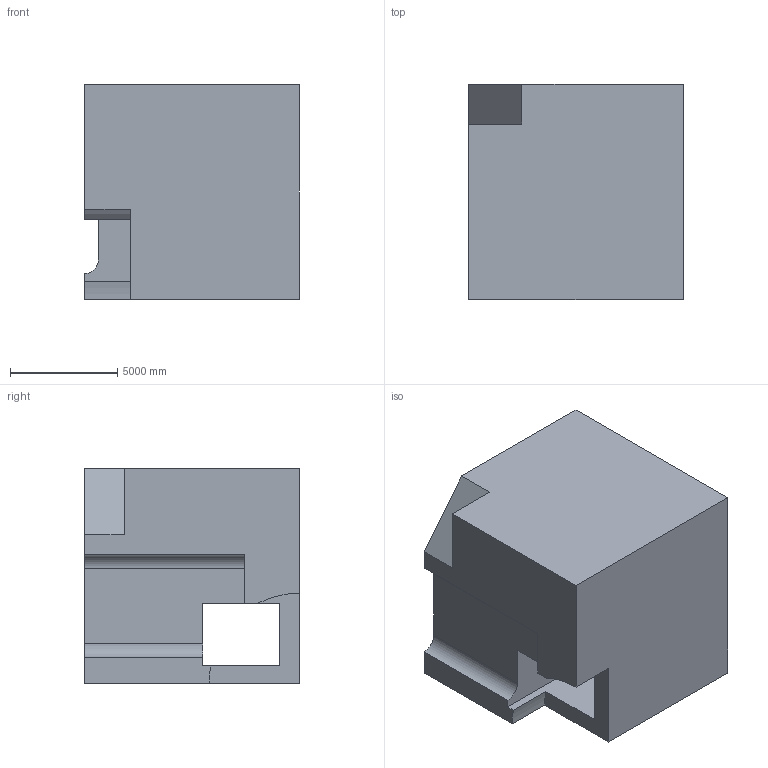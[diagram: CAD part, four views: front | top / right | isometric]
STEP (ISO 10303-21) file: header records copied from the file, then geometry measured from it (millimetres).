
FILE_DESCRIPTION (( 'STEP AP203' ), '1' );
FILE_NAME ('376.STEP', '2022-07-29T11:03:07', ( 'user' ), ( '' ), 'SwSTEP 2.0', 'SolidWorks 2021', '' );
FILE_SCHEMA (( 'CONFIG_CONTROL_DESIGN' ));
Length unit declared in the file: centimetre
Products named in the file (1): 376
Bounding box: 10000 x 10000 x 10000 mm (x, y, z)
Volume: 856299802849.2 mm3; surface area: 679079212.5 mm2
Topology: 1 solids, 1 shells, 20 faces, 57 edges, 38 vertices
Faces by surface type: plane 16, cylinder 4
Entity records: 730 total; most frequent: CARTESIAN_POINT 116, ORIENTED_EDGE 114, DIRECTION 107, EDGE_CURVE 57, VECTOR 49, LINE 49, VERTEX_POINT 38, AXIS2_PLACEMENT_3D 29
